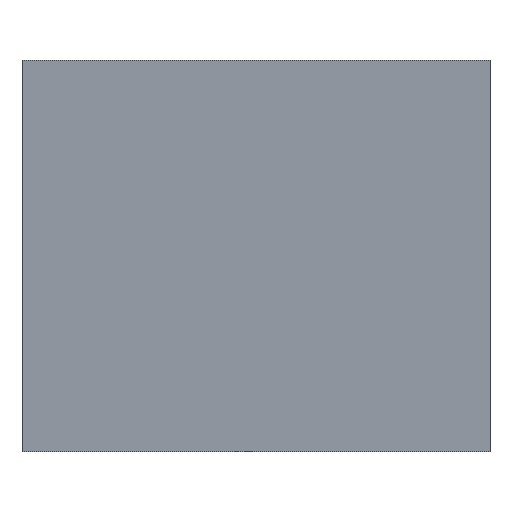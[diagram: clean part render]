
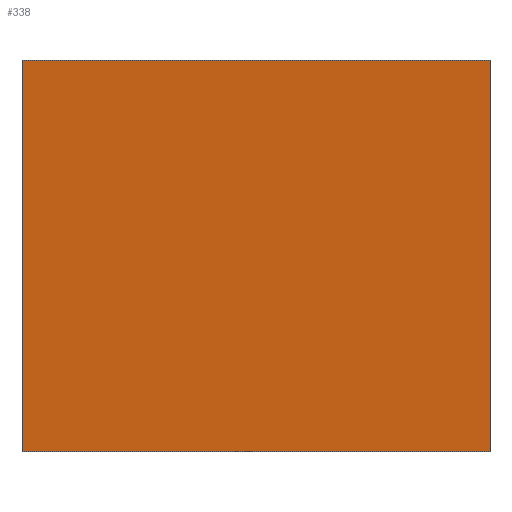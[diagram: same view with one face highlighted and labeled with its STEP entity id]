
A CAD part, front view. The second image highlights one B-rep face of the part: STEP entity #338.
In plain terms, the highlighted planar face has unit normal (0, -0.995, -0.104).
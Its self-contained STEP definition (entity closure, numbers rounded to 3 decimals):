
#44 = PLANE('',#45);
#45 = AXIS2_PLACEMENT_3D('',#46,#47,#48);
#46 = CARTESIAN_POINT('',(-33.,3.543,19.75));
#47 = DIRECTION('',(1.,0.,0.));
#48 = DIRECTION('',(-0.,0.,1.));
#72 = PLANE('',#73);
#73 = AXIS2_PLACEMENT_3D('',#74,#75,#76);
#74 = CARTESIAN_POINT('',(-33.,5.38,-16.75));
#75 = DIRECTION('',(0.,0.,1.));
#76 = DIRECTION('',(0.,1.,0.));
#100 = PLANE('',#101);
#101 = AXIS2_PLACEMENT_3D('',#102,#103,#104);
#102 = CARTESIAN_POINT('',(-13.,3.543,19.75));
#103 = DIRECTION('',(1.,0.,0.));
#104 = DIRECTION('',(-0.,0.,1.));
#126 = PLANE('',#127);
#127 = AXIS2_PLACEMENT_3D('',#128,#129,#130);
#128 = CARTESIAN_POINT('',(-400.,-388.,0.));
#129 = DIRECTION('',(0.,0.,1.));
#130 = DIRECTION('',(1.,0.,0.));
#142 = VERTEX_POINT('',#143);
#143 = CARTESIAN_POINT('',(-33.,5.38,-16.75));
#166 = VERTEX_POINT('',#167);
#167 = CARTESIAN_POINT('',(-33.,3.619,0.));
#188 = EDGE_CURVE('',#166,#142,#189,.T.);
#189 = SURFACE_CURVE('',#190,(#194,#201),.PCURVE_S1.);
#190 = LINE('',#191,#192);
#191 = CARTESIAN_POINT('',(-33.,-2.293,56.25));
#192 = VECTOR('',#193,1.);
#193 = DIRECTION('',(0.,0.105,-0.995));
#194 = PCURVE('',#44,#195);
#195 = DEFINITIONAL_REPRESENTATION('',(#196),#200);
#196 = LINE('',#197,#198);
#197 = CARTESIAN_POINT('',(36.5,5.836));
#198 = VECTOR('',#199,1.);
#199 = DIRECTION('',(-0.995,-0.105));
#200 = ( GEOMETRIC_REPRESENTATION_CONTEXT(2) 
PARAMETRIC_REPRESENTATION_CONTEXT() REPRESENTATION_CONTEXT('2D SPACE',''
  ) );
#201 = PCURVE('',#202,#207);
#202 = PLANE('',#203);
#203 = AXIS2_PLACEMENT_3D('',#204,#205,#206);
#204 = CARTESIAN_POINT('',(-33.,-2.293,56.25));
#205 = DIRECTION('',(-0.,0.995,0.105));
#206 = DIRECTION('',(0.,0.105,-0.995));
#207 = DEFINITIONAL_REPRESENTATION('',(#208),#212);
#208 = LINE('',#209,#210);
#209 = CARTESIAN_POINT('',(0.,0.));
#210 = VECTOR('',#211,1.);
#211 = DIRECTION('',(1.,0.));
#212 = ( GEOMETRIC_REPRESENTATION_CONTEXT(2) 
PARAMETRIC_REPRESENTATION_CONTEXT() REPRESENTATION_CONTEXT('2D SPACE',''
  ) );
#218 = VERTEX_POINT('',#219);
#219 = CARTESIAN_POINT('',(-13.,3.619,0.));
#242 = EDGE_CURVE('',#166,#218,#243,.T.);
#243 = SURFACE_CURVE('',#244,(#248,#255),.PCURVE_S1.);
#244 = LINE('',#245,#246);
#245 = CARTESIAN_POINT('',(-216.5,3.619,0.));
#246 = VECTOR('',#247,1.);
#247 = DIRECTION('',(1.,0.,-0.));
#248 = PCURVE('',#126,#249);
#249 = DEFINITIONAL_REPRESENTATION('',(#250),#254);
#250 = LINE('',#251,#252);
#251 = CARTESIAN_POINT('',(183.5,391.619));
#252 = VECTOR('',#253,1.);
#253 = DIRECTION('',(1.,0.));
#254 = ( GEOMETRIC_REPRESENTATION_CONTEXT(2) 
PARAMETRIC_REPRESENTATION_CONTEXT() REPRESENTATION_CONTEXT('2D SPACE',''
  ) );
#255 = PCURVE('',#202,#256);
#256 = DEFINITIONAL_REPRESENTATION('',(#257),#261);
#257 = LINE('',#258,#259);
#258 = CARTESIAN_POINT('',(56.56,183.5));
#259 = VECTOR('',#260,1.);
#260 = DIRECTION('',(0.,-1.));
#261 = ( GEOMETRIC_REPRESENTATION_CONTEXT(2) 
PARAMETRIC_REPRESENTATION_CONTEXT() REPRESENTATION_CONTEXT('2D SPACE',''
  ) );
#267 = VERTEX_POINT('',#268);
#268 = CARTESIAN_POINT('',(-13.,5.38,-16.75));
#291 = EDGE_CURVE('',#218,#267,#292,.T.);
#292 = SURFACE_CURVE('',#293,(#297,#304),.PCURVE_S1.);
#293 = LINE('',#294,#295);
#294 = CARTESIAN_POINT('',(-13.,-2.293,56.25));
#295 = VECTOR('',#296,1.);
#296 = DIRECTION('',(0.,0.105,-0.995));
#297 = PCURVE('',#100,#298);
#298 = DEFINITIONAL_REPRESENTATION('',(#299),#303);
#299 = LINE('',#300,#301);
#300 = CARTESIAN_POINT('',(36.5,5.836));
#301 = VECTOR('',#302,1.);
#302 = DIRECTION('',(-0.995,-0.105));
#303 = ( GEOMETRIC_REPRESENTATION_CONTEXT(2) 
PARAMETRIC_REPRESENTATION_CONTEXT() REPRESENTATION_CONTEXT('2D SPACE',''
  ) );
#304 = PCURVE('',#202,#305);
#305 = DEFINITIONAL_REPRESENTATION('',(#306),#310);
#306 = LINE('',#307,#308);
#307 = CARTESIAN_POINT('',(0.,-20.));
#308 = VECTOR('',#309,1.);
#309 = DIRECTION('',(1.,0.));
#310 = ( GEOMETRIC_REPRESENTATION_CONTEXT(2) 
PARAMETRIC_REPRESENTATION_CONTEXT() REPRESENTATION_CONTEXT('2D SPACE',''
  ) );
#315 = EDGE_CURVE('',#142,#267,#316,.T.);
#316 = SURFACE_CURVE('',#317,(#321,#328),.PCURVE_S1.);
#317 = LINE('',#318,#319);
#318 = CARTESIAN_POINT('',(-33.,5.38,-16.75));
#319 = VECTOR('',#320,1.);
#320 = DIRECTION('',(1.,0.,0.));
#321 = PCURVE('',#72,#322);
#322 = DEFINITIONAL_REPRESENTATION('',(#323),#327);
#323 = LINE('',#324,#325);
#324 = CARTESIAN_POINT('',(0.,0.));
#325 = VECTOR('',#326,1.);
#326 = DIRECTION('',(0.,-1.));
#327 = ( GEOMETRIC_REPRESENTATION_CONTEXT(2) 
PARAMETRIC_REPRESENTATION_CONTEXT() REPRESENTATION_CONTEXT('2D SPACE',''
  ) );
#328 = PCURVE('',#202,#329);
#329 = DEFINITIONAL_REPRESENTATION('',(#330),#334);
#330 = LINE('',#331,#332);
#331 = CARTESIAN_POINT('',(73.402,0.));
#332 = VECTOR('',#333,1.);
#333 = DIRECTION('',(0.,-1.));
#334 = ( GEOMETRIC_REPRESENTATION_CONTEXT(2) 
PARAMETRIC_REPRESENTATION_CONTEXT() REPRESENTATION_CONTEXT('2D SPACE',''
  ) );
#338 = ADVANCED_FACE('',(#339),#202,.F.);
#339 = FACE_BOUND('',#340,.F.);
#340 = EDGE_LOOP('',(#341,#342,#343,#344));
#341 = ORIENTED_EDGE('',*,*,#188,.F.);
#342 = ORIENTED_EDGE('',*,*,#242,.T.);
#343 = ORIENTED_EDGE('',*,*,#291,.T.);
#344 = ORIENTED_EDGE('',*,*,#315,.F.);
